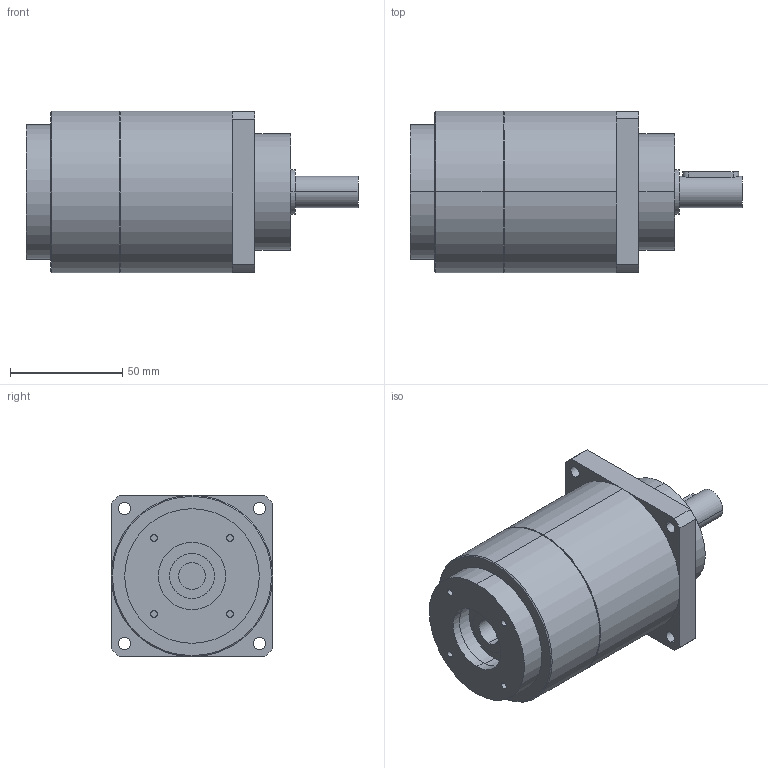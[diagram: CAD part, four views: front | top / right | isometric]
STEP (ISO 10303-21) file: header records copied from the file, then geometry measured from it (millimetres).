
FILE_DESCRIPTION(('CoCreate Modeling STEP Export'),'2;1');
FILE_NAME('GPT75_ig-9-12-16-20-25-28-35-40-50-70-100_14_B5T_12_P29.stp','2014-08-27T13:37:27',(''),(''),'CoCreate Modeling STEP processor for AP214 (Solid Model)','CoCreate Modeling 16.00C 25-Feb-2009 (C) Parametric Technology GmbH','');
FILE_SCHEMA(('AUTOMOTIVE_DESIGN { 1 0 10303 214 1 1 1 1 }'));
Length unit declared in the file: millimetre
Products named in the file (2): GPT75_ig-9-12-16-20-25-28-35-40-50-70-100_14_B5T_12_P29
Assembly tree (1 placements, depth 2):
  GPT75_ig-9-12-16-20-25-28-35-40-50-70-100_14_B5T_12_P29
    GPT75_ig-9-12-16-20-25-28-35-40-50-70-100_14_B5T_12_P29
Bounding box: 148 x 72 x 72 mm (x, y, z)
Volume: 439141.7 mm3; surface area: 41513.3 mm2
Topology: 1 solids, 1 shells, 75 faces, 177 edges, 118 vertices
Faces by surface type: cylinder 44, plane 27, cone 4
Entity records: 2271 total; most frequent: CARTESIAN_POINT 680, ORIENTED_EDGE 354, DIRECTION 278, EDGE_CURVE 177, VERTEX_POINT 118, AXIS2_PLACEMENT_3D 104, EDGE_LOOP 97, FACE_OUTER_BOUND 75
